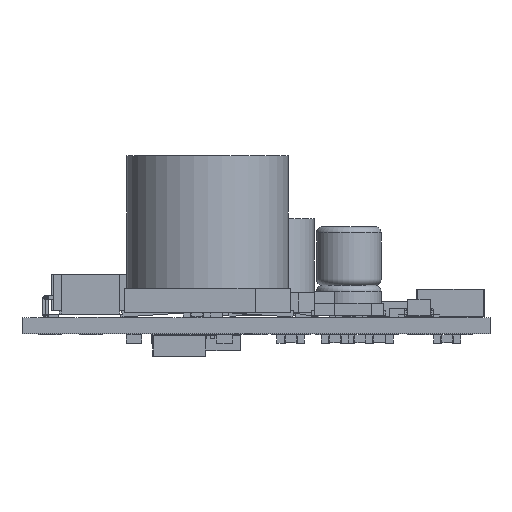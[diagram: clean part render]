
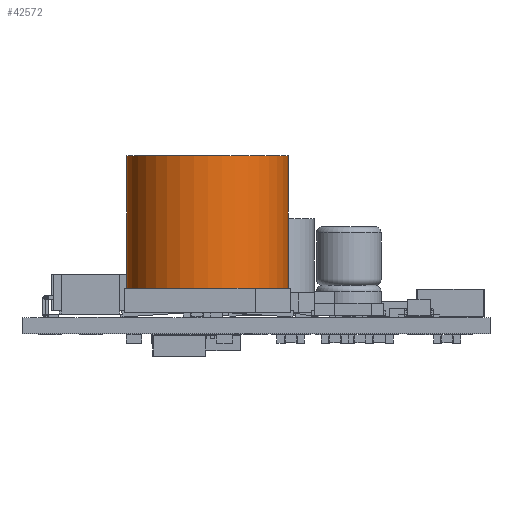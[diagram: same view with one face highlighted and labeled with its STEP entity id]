
A CAD part, front view. The second image highlights one B-rep face of the part: STEP entity #42572.
In plain terms, the highlighted cylindrical face has radius 5 mm (diameter 10 mm), a partial arc.
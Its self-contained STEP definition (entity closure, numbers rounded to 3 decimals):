
#42522=DIRECTION('',(0.,0.,9.69));
#42523=DIRECTION('',(0.,0.,-9.69));
#42524=DIRECTION('',(5.,0.,0.));
#42525=CARTESIAN_POINT('',(11.5,5.6,10.535));
#42526=AXIS2_PLACEMENT_3D('',#42525,#42522,#42524);
#42527=CIRCLE('',#42526,5.);
#42528=CARTESIAN_POINT('',(11.5,5.6,0.845));
#42529=AXIS2_PLACEMENT_3D('',#42528,#42523,#42524);
#42530=CIRCLE('',#42529,5.);
#42531=CARTESIAN_POINT('',(16.5,5.6,10.535));
#42532=VERTEX_POINT('',#42531);
#42533=CARTESIAN_POINT('',(6.5,5.6,10.535));
#42534=VERTEX_POINT('',#42533);
#42535=CARTESIAN_POINT('',(16.5,5.6,0.845));
#42536=VERTEX_POINT('',#42535);
#42537=CARTESIAN_POINT('',(6.5,5.6,0.845));
#42538=VERTEX_POINT('',#42537);
#42542=EDGE_CURVE('',#42534,#42532,#42527,.T.);
#42544=ORIENTED_EDGE('',*,*,#42542,.F.);
#42547=DIRECTION('',(0.,0.,9.69));
#42548=VECTOR('',#42547,1.);
#42549=LINE('',#42535,#42548);
#42550=EDGE_CURVE('',#42536,#42532,#42549,.T.);
#42551=ORIENTED_EDGE('',*,*,#42550,.T.);
#42553=LINE('',#42537,#42548);
#42554=EDGE_CURVE('',#42538,#42534,#42553,.T.);
#42556=ORIENTED_EDGE('',*,*,#42554,.F.);
#42557=EDGE_CURVE('',#42536,#42538,#42530,.T.);
#42559=ORIENTED_EDGE('',*,*,#42557,.F.);
#42569=EDGE_LOOP('',(#42544,#42556,#42559,#42551));
#42570=FACE_BOUND('',#42569,.T.);
#42571=CYLINDRICAL_SURFACE('',#42529,5.);
#42572=ADVANCED_FACE('',(#42570),#42571,.T.);
